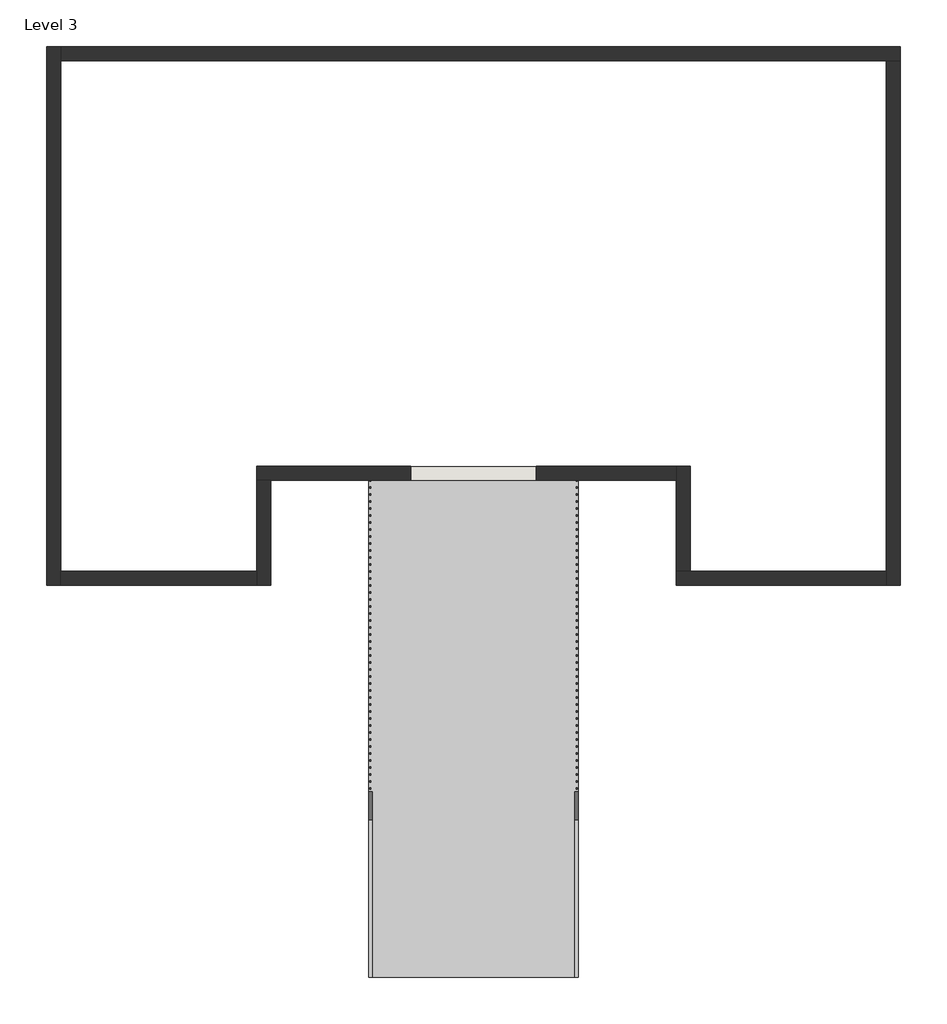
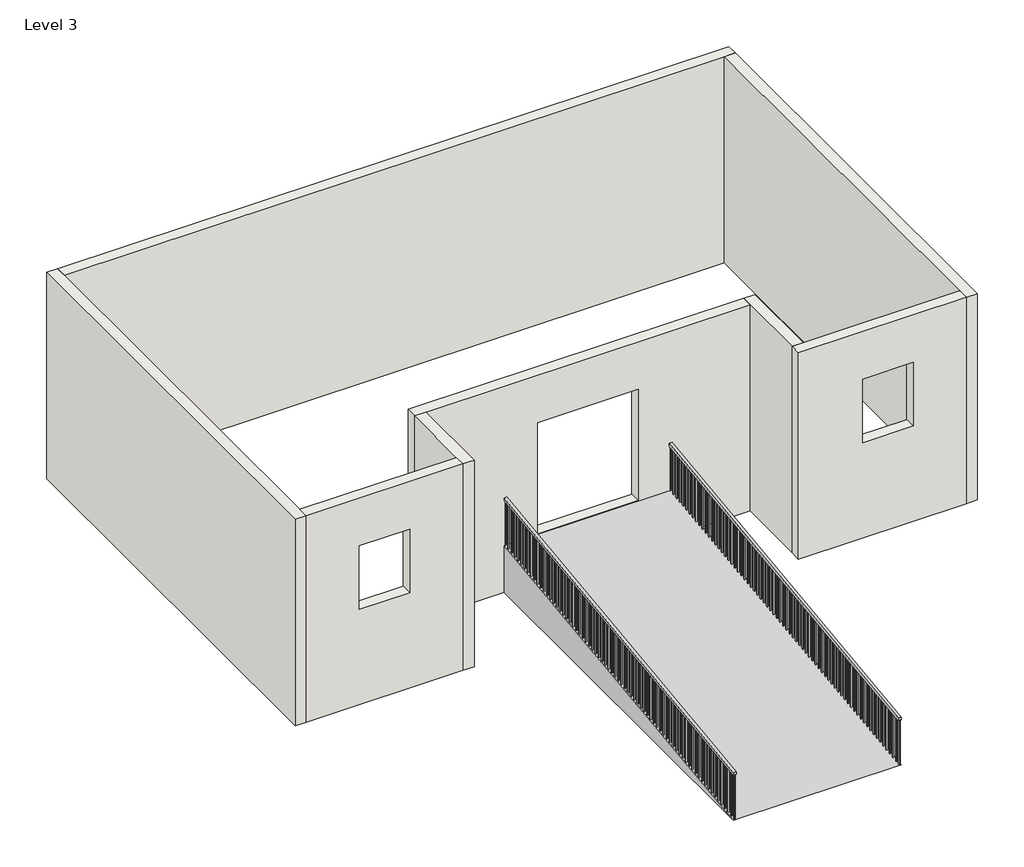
# One storey: 8 walls, 2 railings, 1 ramp.
"""IFC4 building model written with IfcOpenShell, lengths in millimetres."""

from ifc_helpers import new_model, si_unit, frame, origin, place, context, project, spatial, polyline, outline, extrude, faceted_brep, transform, mapped, element, save
from components import handrail_rectangular_1615bb59, handrail_rectangular_981b7af3, ramp_2_3e3c73fb

model = new_model("IFC4")

# Units and contexts
model_context = context("Model", 3, world=origin())
ifc_project = project(units=[si_unit("LENGTHUNIT", "METRE", prefix="MILLI")], contexts=[model_context])

# Site, building, storey
site = spatial("IfcSite", under=ifc_project)
building = spatial("IfcBuilding", under=site)
storey = spatial("IfcBuildingStorey", under=building, Name="Level 3", Elevation=-914.4)

# Railings
placement = place(None, origin())
handrail_rectangular_shape = handrail_rectangular_1615bb59(model_context)
element("IfcRailing", 1, ObjectType="Handrail - Rectangular", at=placement, inside=storey, context=model_context, shape_type="MappedRepresentation", body=[
    mapped(handrail_rectangular_shape, transform((0.0, 0.0, 0.0), x_axis=(1.0, 0.0, 0.0), y_axis=(0.0, 1.0, 0.0), z_axis=(0.0, 0.0, 1.0))),
])
handrail_rectangular_2_shape = handrail_rectangular_981b7af3(model_context)
element("IfcRailing", 2, ObjectType="Handrail - Rectangular", at=placement, inside=storey, context=model_context, shape_type="MappedRepresentation", body=[
    mapped(handrail_rectangular_2_shape, transform((0.0, 0.0, 0.0), x_axis=(1.0, 0.0, 0.0), y_axis=(0.0, 1.0, 0.0), z_axis=(0.0, 0.0, 1.0))),
])

# Ramp
ramp_2_shape = ramp_2_3e3c73fb(model_context)
element("IfcRamp", 3, ObjectType="Ramp 2", at=placement, inside=storey, context=model_context, shape_type="MappedRepresentation", body=[
    mapped(ramp_2_shape, transform((0.0, 0.0, 0.0), x_axis=(1.0, 0.0, 0.0), y_axis=(0.0, 1.0, 0.0), z_axis=(0.0, 0.0, 1.0))),
])

# Walls
element("IfcWall", 4, ObjectType="Generic - 8\"", at=placement, inside=storey, context=model_context, shape_type="Brep", body=[
    faceted_brep([(-7868.0845581, -2782.6859239, -914.4), (-7868.0845581, -2579.4859239, -914.4), (-7868.0845581, 4837.3140761, -914.4), (-7868.0845581, 5040.5140761, -914.4), (-7868.0845581, 5040.5140761, 3048.0), (-7868.0845581, 4837.3140761, 3048.0), (-7868.0845581, -2579.4859239, 3048.0), (-7868.0845581, -2782.6859239, 3048.0), (-8071.2845581, -2782.6859239, -914.4), (-8071.2845581, -2782.6859239, 3048.0), (-8071.2845581, 5040.5140761, 3048.0), (-8071.2845581, 5040.5140761, -914.4)], [[[0, 1, 2, 3, 4, 5, 6, 7]], [[8, 9, 10, 11]], [[3, 2, 1, 0, 8, 11]], [[7, 6, 5, 4, 10, 9]], [[4, 3, 11, 10]], [[0, 7, 9, 8]]]),
])
element("IfcWall", 5, ObjectType="Generic - 8\"", at=placement, inside=storey, context=model_context, shape_type="Brep", body=[
    faceted_brep([(-7868.0845581, 4837.3140761, -914.4), (4120.7154419, 4837.3140761, -914.4), (4323.9154419, 4837.3140761, -914.4), (4323.9154419, 4837.3140761, 3048.0), (4120.7154419, 4837.3140761, 3048.0), (-7868.0845581, 4837.3140761, 3048.0), (-7868.0845581, 5040.5140761, -914.4), (-7868.0845581, 5040.5140761, 3048.0), (4323.9154419, 5040.5140761, 3048.0), (4323.9154419, 5040.5140761, -914.4)], [[[0, 1, 2, 3, 4, 5]], [[6, 7, 8, 9]], [[2, 1, 0, 6, 9]], [[5, 4, 3, 8, 7]], [[3, 2, 9, 8]], [[0, 5, 7, 6]]]),
])
element("IfcWall", 6, ObjectType="Generic - 8\"", at=placement, inside=storey, context=model_context, shape_type="Brep", body=[
    faceted_brep([(4120.7154419, 4837.3140761, -914.4), (4120.7154419, -2579.4859239, -914.4), (4120.7154419, -2782.6859239, -914.4), (4120.7154419, -2782.6859239, 3048.0), (4120.7154419, -2579.4859239, 3048.0), (4120.7154419, 4837.3140761, 3048.0), (4323.9154419, 4837.3140761, -914.4), (4323.9154419, 4837.3140761, 3048.0), (4323.9154419, -2782.6859239, 3048.0), (4323.9154419, -2782.6859239, -914.4)], [[[0, 1, 2, 3, 4, 5]], [[6, 7, 8, 9]], [[2, 1, 0, 6, 9]], [[5, 4, 3, 8, 7]], [[3, 2, 9, 8]], [[0, 5, 7, 6]]]),
])
element("IfcWall", 7, ObjectType="Generic - 8\"", at=placement, inside=storey, context=model_context, shape_type="Brep", body=[
    faceted_brep([(4120.7154419, -2579.4859239, -914.4), (1275.9154419, -2579.4859239, -914.4), (1072.7154419, -2579.4859239, -914.4), (1072.7154419, -2579.4859239, 3048.0), (1275.9154419, -2579.4859239, 3048.0), (4120.7154419, -2579.4859239, 3048.0), (2241.1154419, -2579.4859239, 2133.6), (2241.1154419, -2579.4859239, 914.4), (3155.5154419, -2579.4859239, 914.4), (3155.5154419, -2579.4859239, 2133.6), (4120.7154419, -2782.6859239, -914.4), (4120.7154419, -2782.6859239, 3048.0), (1072.7154419, -2782.6859239, 3048.0), (1072.7154419, -2782.6859239, -914.4), (2241.1154419, -2782.6859239, 2133.6), (3155.5154419, -2782.6859239, 2133.6), (3155.5154419, -2782.6859239, 914.4), (2241.1154419, -2782.6859239, 914.4)], [[[0, 1, 2, 3, 4, 5], [6, 7, 8, 9]], [[10, 11, 12, 13], [14, 15, 16, 17]], [[2, 1, 0, 10, 13]], [[5, 4, 3, 12, 11]], [[3, 2, 13, 12]], [[0, 5, 11, 10]], [[7, 6, 14, 17]], [[8, 7, 17, 16]], [[9, 8, 16, 15]], [[6, 9, 15, 14]]]),
])
element("IfcWall", 8, ObjectType="Generic - 8\"", at=placement, inside=storey, context=model_context, shape_type="Brep", body=[
    faceted_brep([(1275.9154419, -2579.4859239, -914.4), (1275.9154419, -1055.4859239, -914.4), (1275.9154419, -1055.4859239, 3048.0), (1275.9154419, -2579.4859239, 3048.0), (1072.7154419, -2579.4859239, -914.4), (1072.7154419, -2579.4859239, 3048.0), (1072.7154419, -1258.6859239, 3048.0), (1072.7154419, -1055.4859239, 3048.0), (1072.7154419, -1055.4859239, -914.4), (1072.7154419, -1258.6859239, -914.4)], [[[0, 1, 2, 3]], [[4, 5, 6, 7, 8, 9]], [[1, 0, 4, 9, 8]], [[3, 2, 7, 6, 5]], [[2, 1, 8, 7]], [[0, 3, 5, 4]]]),
])
element("IfcWall", 9, ObjectType="Generic - 8\"", at=placement, inside=storey, context=model_context, shape_type="Brep", body=[
    faceted_brep([(1072.7154419, -1055.4859239, -914.4), (-5023.2845581, -1055.4859239, -914.4), (-5023.2845581, -1055.4859239, 3048.0), (1072.7154419, -1055.4859239, 3048.0), (-2788.0845581, -1055.4859239, 0.0), (-959.2845581, -1055.4859239, 0.0), (-959.2845581, -1055.4859239, 2133.6), (-2788.0845581, -1055.4859239, 2133.6), (1072.7154419, -1258.6859239, -914.4), (1072.7154419, -1258.6859239, 3048.0), (-4820.0845581, -1258.6859239, 3048.0), (-5023.2845581, -1258.6859239, 3048.0), (-5023.2845581, -1258.6859239, -914.4), (-4820.0845581, -1258.6859239, -914.4), (-2788.0845581, -1258.6859239, 0.0), (-2788.0845581, -1258.6859239, 2133.6), (-959.2845581, -1258.6859239, 2133.6), (-959.2845581, -1258.6859239, 0.0)], [[[0, 1, 2, 3], [4, 5, 6, 7]], [[8, 9, 10, 11, 12, 13], [14, 15, 16, 17]], [[1, 0, 8, 13, 12]], [[3, 2, 11, 10, 9]], [[2, 1, 12, 11]], [[0, 3, 9, 8]], [[5, 4, 14, 17]], [[6, 5, 17, 16]], [[7, 6, 16, 15]], [[4, 7, 15, 14]]]),
])
element("IfcWall", 10, ObjectType="Generic - 8\"", at=placement, inside=storey, context=model_context, shape_type="Brep", body=[
    faceted_brep([(-5023.2845581, -1258.6859239, -914.4), (-5023.2845581, -2579.4859239, -914.4), (-5023.2845581, -2782.6859239, -914.4), (-5023.2845581, -2782.6859239, 3048.0), (-5023.2845581, -2579.4859239, 3048.0), (-5023.2845581, -1258.6859239, 3048.0), (-4820.0845581, -1258.6859239, -914.4), (-4820.0845581, -1258.6859239, 3048.0), (-4820.0845581, -2782.6859239, 3048.0), (-4820.0845581, -2782.6859239, -914.4)], [[[0, 1, 2, 3, 4, 5]], [[6, 7, 8, 9]], [[2, 1, 0, 6, 9]], [[5, 4, 3, 8, 7]], [[3, 2, 9, 8]], [[0, 5, 7, 6]]]),
])
element("IfcWall", 11, ObjectType="Generic - 8\"", at=placement, inside=storey, context=model_context, shape_type="SweptSolid", body=[
    extrude(outline(polyline([(-914.4, -5023.2845581), (3048.0, -5023.2845581), (3048.0, -7868.0845581), (-914.4, -7868.0845581), (-914.4, -5023.2845581)]), holes=[polyline([(2133.6, -6902.8845581), (2133.6, -5988.4845581), (914.4, -5988.4845581), (914.4, -6902.8845581), (2133.6, -6902.8845581)])]), frame((0.0, -2782.6859239, 0.0), z_axis=(0.0, 1.0, 0.0), x_axis=(0.0, 0.0, 1.0)), (0.0, 0.0, 1.0), 203.2),
])

save(model, "model.ifc")
